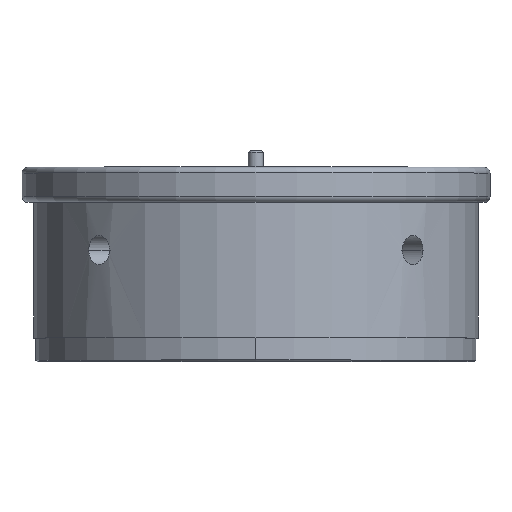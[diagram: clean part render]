
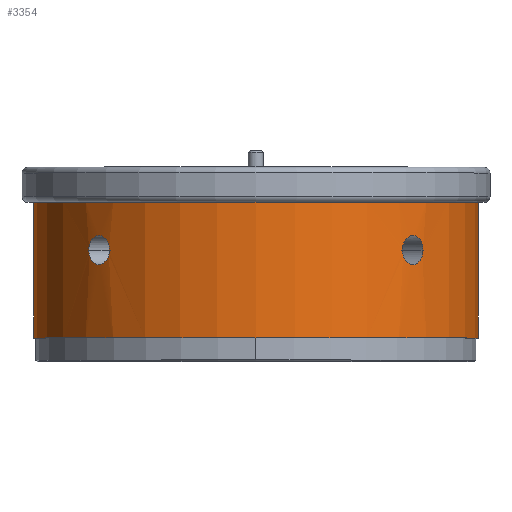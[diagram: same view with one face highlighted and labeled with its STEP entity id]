
A CAD part, top view. The second image highlights one B-rep face of the part: STEP entity #3354.
In plain terms, the highlighted cylindrical face has radius 19 mm (diameter 38 mm), a partial arc.
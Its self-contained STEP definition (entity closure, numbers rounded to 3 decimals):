
#170=CARTESIAN_POINT('',(0.015,-3.,-0.015));
#171=DIRECTION('',(0.,-1.,0.));
#172=DIRECTION('',(1.,0.,0.));
#173=AXIS2_PLACEMENT_3D('',#170,#171,#172);
#190=CARTESIAN_POINT('',(-14.275,-7.1,12.507));
#191=CARTESIAN_POINT('',(-14.275,-7.002,12.507));
#192=CARTESIAN_POINT('',(-14.261,-6.809,12.524));
#193=CARTESIAN_POINT('',(-14.189,-6.518,12.605));
#194=CARTESIAN_POINT('',(-14.076,-6.27,12.732));
#195=CARTESIAN_POINT('',(-13.924,-6.067,12.898));
#196=CARTESIAN_POINT('',(-13.744,-5.926,13.089));
#197=CARTESIAN_POINT('',(-13.538,-5.849,13.303));
#198=CARTESIAN_POINT('',(-13.326,-5.845,13.516));
#199=CARTESIAN_POINT('',(-13.107,-5.916,13.727));
#200=CARTESIAN_POINT('',(-12.91,-6.055,13.912));
#201=CARTESIAN_POINT('',(-12.739,-6.259,14.07));
#202=CARTESIAN_POINT('',(-12.608,-6.509,14.186));
#203=CARTESIAN_POINT('',(-12.524,-6.805,14.26));
#204=CARTESIAN_POINT('',(-12.507,-7.,14.275));
#205=CARTESIAN_POINT('',(-12.507,-7.1,14.275));
#207=CARTESIAN_POINT('',(-12.507,-7.1,14.275));
#208=CARTESIAN_POINT('',(-12.507,-7.198,14.275));
#209=CARTESIAN_POINT('',(-12.524,-7.391,14.261));
#210=CARTESIAN_POINT('',(-12.605,-7.682,14.189));
#211=CARTESIAN_POINT('',(-12.732,-7.93,14.076));
#212=CARTESIAN_POINT('',(-12.898,-8.133,13.924));
#213=CARTESIAN_POINT('',(-13.089,-8.274,13.744));
#214=CARTESIAN_POINT('',(-13.303,-8.351,13.538));
#215=CARTESIAN_POINT('',(-13.516,-8.355,13.326));
#216=CARTESIAN_POINT('',(-13.727,-8.284,13.107));
#217=CARTESIAN_POINT('',(-13.912,-8.145,12.91));
#218=CARTESIAN_POINT('',(-14.07,-7.941,12.739));
#219=CARTESIAN_POINT('',(-14.186,-7.691,12.608));
#220=CARTESIAN_POINT('',(-14.26,-7.395,12.524));
#221=CARTESIAN_POINT('',(-14.275,-7.2,12.507));
#222=CARTESIAN_POINT('',(-14.275,-7.1,12.507));
#224=CARTESIAN_POINT('',(12.521,-7.1,14.289));
#225=CARTESIAN_POINT('',(12.521,-7.002,14.289));
#226=CARTESIAN_POINT('',(12.538,-6.809,14.274));
#227=CARTESIAN_POINT('',(12.619,-6.518,14.203));
#228=CARTESIAN_POINT('',(12.746,-6.27,14.09));
#229=CARTESIAN_POINT('',(12.912,-6.067,13.938));
#230=CARTESIAN_POINT('',(13.104,-5.926,13.759));
#231=CARTESIAN_POINT('',(13.317,-5.849,13.553));
#232=CARTESIAN_POINT('',(13.53,-5.845,13.34));
#233=CARTESIAN_POINT('',(13.742,-5.916,13.122));
#234=CARTESIAN_POINT('',(13.928,-6.055,12.926));
#235=CARTESIAN_POINT('',(14.085,-6.259,12.754));
#236=CARTESIAN_POINT('',(14.202,-6.509,12.624));
#237=CARTESIAN_POINT('',(14.276,-6.805,12.54));
#238=CARTESIAN_POINT('',(14.291,-7.,12.523));
#239=CARTESIAN_POINT('',(14.291,-7.1,12.523));
#241=CARTESIAN_POINT('',(14.291,-7.1,12.523));
#242=CARTESIAN_POINT('',(14.291,-7.198,12.523));
#243=CARTESIAN_POINT('',(14.276,-7.391,12.54));
#244=CARTESIAN_POINT('',(14.205,-7.682,12.62));
#245=CARTESIAN_POINT('',(14.091,-7.93,12.747));
#246=CARTESIAN_POINT('',(13.939,-8.133,12.913));
#247=CARTESIAN_POINT('',(13.76,-8.274,13.104));
#248=CARTESIAN_POINT('',(13.553,-8.351,13.317));
#249=CARTESIAN_POINT('',(13.34,-8.355,13.53));
#250=CARTESIAN_POINT('',(13.122,-8.284,13.742));
#251=CARTESIAN_POINT('',(12.924,-8.145,13.927));
#252=CARTESIAN_POINT('',(12.753,-7.941,14.084));
#253=CARTESIAN_POINT('',(12.622,-7.691,14.2));
#254=CARTESIAN_POINT('',(12.538,-7.395,14.274));
#255=CARTESIAN_POINT('',(12.521,-7.2,14.289));
#256=CARTESIAN_POINT('',(12.521,-7.1,14.289));
#258=CARTESIAN_POINT('',(0.015,-14.6,-0.015));
#259=DIRECTION('',(0.,-1.,0.));
#260=DIRECTION('',(1.,0.,0.));
#261=AXIS2_PLACEMENT_3D('',#258,#259,#260);
#263=DIRECTION('',(0.,1.,0.));
#264=VECTOR('',#263,11.6);
#265=CARTESIAN_POINT('',(-18.985,-14.6,-0.015));
#266=LINE('',#265,#264);
#383=DIRECTION('',(0.,1.,0.));
#384=VECTOR('',#383,11.6);
#385=CARTESIAN_POINT('',(19.015,-14.6,-0.015));
#386=LINE('',#385,#384);
#2486=CARTESIAN_POINT('',(19.015,-3.,-0.015));
#2487=CARTESIAN_POINT('',(-18.985,-3.,-0.015));
#2488=VERTEX_POINT('',#2486);
#2489=VERTEX_POINT('',#2487);
#2506=VERTEX_POINT('',#190);
#2507=VERTEX_POINT('',#205);
#2510=VERTEX_POINT('',#224);
#2511=VERTEX_POINT('',#239);
#2738=CARTESIAN_POINT('',(19.015,-14.6,-0.015));
#2739=CARTESIAN_POINT('',(-18.985,-14.6,-0.015));
#2740=VERTEX_POINT('',#2738);
#2741=VERTEX_POINT('',#2739);
#3328=CARTESIAN_POINT('',(0.015,-16.6,-0.015));
#3329=DIRECTION('',(0.,-1.,0.));
#3330=DIRECTION('',(-1.,0.,0.));
#3331=AXIS2_PLACEMENT_3D('',#3328,#3329,#3330);
#3332=CYLINDRICAL_SURFACE('',#3331,19.);
#3334=ORIENTED_EDGE('',*,*,#3333,.T.);
#3336=ORIENTED_EDGE('',*,*,#3335,.T.);
#3337=ORIENTED_EDGE('',*,*,#3321,.F.);
#3339=ORIENTED_EDGE('',*,*,#3338,.F.);
#3340=EDGE_LOOP('',(#3334,#3336,#3337,#3339));
#3341=FACE_OUTER_BOUND('',#3340,.F.);
#3343=ORIENTED_EDGE('',*,*,#3342,.F.);
#3345=ORIENTED_EDGE('',*,*,#3344,.F.);
#3346=EDGE_LOOP('',(#3343,#3345));
#3347=FACE_BOUND('',#3346,.F.);
#3349=ORIENTED_EDGE('',*,*,#3348,.F.);
#3351=ORIENTED_EDGE('',*,*,#3350,.F.);
#3352=EDGE_LOOP('',(#3349,#3351));
#3353=FACE_BOUND('',#3352,.F.);
#3354=ADVANCED_FACE('',(#3341,#3347,#3353),#3332,.T.);
#174=CIRCLE('',#173,19.);
#206=B_SPLINE_CURVE_WITH_KNOTS('',3,(#190,#191,#192,#193,#194,#195,#196,#197,
#198,#199,#200,#201,#202,#203,#204,#205),.UNSPECIFIED.,.F.,.F.,(4,1,1,1,1,1,1,1,
1,1,1,1,1,4),(0.,0.077,0.154,0.231,
0.308,0.385,0.462,0.538,
0.615,0.692,0.769,0.846,
0.923,1.),.UNSPECIFIED.);
#223=B_SPLINE_CURVE_WITH_KNOTS('',3,(#207,#208,#209,#210,#211,#212,#213,#214,
#215,#216,#217,#218,#219,#220,#221,#222),.UNSPECIFIED.,.F.,.F.,(4,1,1,1,1,1,1,1,
1,1,1,1,1,4),(0.,0.077,0.154,0.231,
0.308,0.385,0.462,0.538,
0.615,0.692,0.769,0.846,
0.923,1.),.UNSPECIFIED.);
#240=B_SPLINE_CURVE_WITH_KNOTS('',3,(#224,#225,#226,#227,#228,#229,#230,#231,
#232,#233,#234,#235,#236,#237,#238,#239),.UNSPECIFIED.,.F.,.F.,(4,1,1,1,1,1,1,1,
1,1,1,1,1,4),(0.,0.077,0.154,0.231,
0.308,0.385,0.462,0.538,
0.615,0.692,0.769,0.846,
0.923,1.),.UNSPECIFIED.);
#257=B_SPLINE_CURVE_WITH_KNOTS('',3,(#241,#242,#243,#244,#245,#246,#247,#248,
#249,#250,#251,#252,#253,#254,#255,#256),.UNSPECIFIED.,.F.,.F.,(4,1,1,1,1,1,1,1,
1,1,1,1,1,4),(0.,0.077,0.154,0.231,
0.308,0.385,0.462,0.538,
0.615,0.692,0.769,0.846,
0.923,1.),.UNSPECIFIED.);
#262=CIRCLE('',#261,19.);
#3321=EDGE_CURVE('',#2488,#2489,#174,.T.);
#3333=EDGE_CURVE('',#2740,#2741,#262,.T.);
#3335=EDGE_CURVE('',#2741,#2489,#266,.T.);
#3338=EDGE_CURVE('',#2740,#2488,#386,.T.);
#3342=EDGE_CURVE('',#2510,#2511,#240,.T.);
#3344=EDGE_CURVE('',#2511,#2510,#257,.T.);
#3348=EDGE_CURVE('',#2506,#2507,#206,.T.);
#3350=EDGE_CURVE('',#2507,#2506,#223,.T.);
